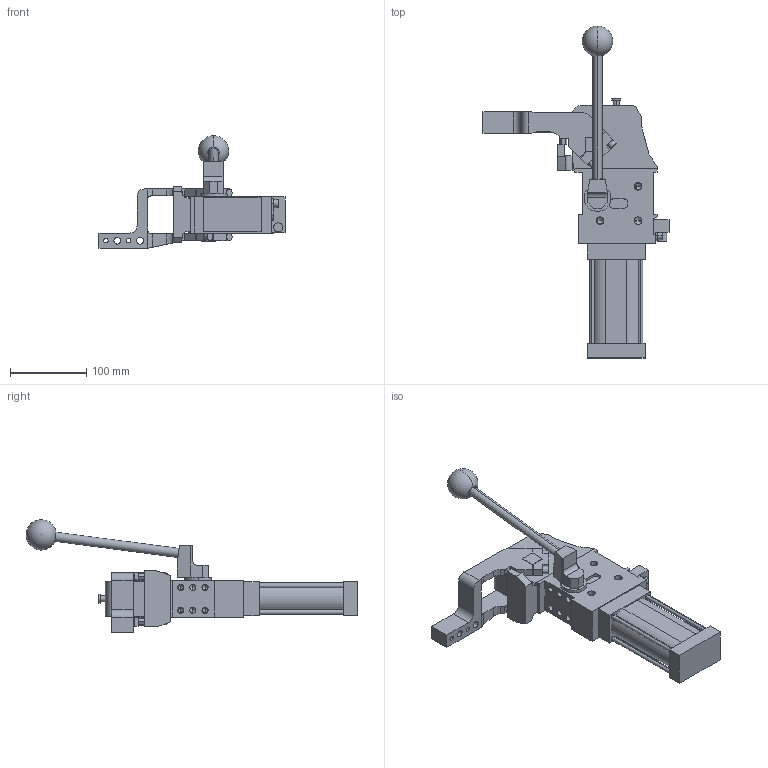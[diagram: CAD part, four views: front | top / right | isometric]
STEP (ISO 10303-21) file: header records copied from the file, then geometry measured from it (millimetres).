
FILE_DESCRIPTION (( 'STEP AP214' ), '1' );
FILE_NAME ('cplm50latv1di1g_135.STEP', '2023-01-26T13:27:41', ( '' ), ( '' ), 'SwSTEP 2.0', 'SolidWorks 2022', '' );
FILE_SCHEMA (( 'AUTOMOTIVE_DESIGN' ));
Length unit declared in the file: millimetre
Products named in the file (5): blocchetto_VEP_0; leva_v1d_cpl50t; comando_manuale_cplm_50; cplm50latv1di1g_135; meccanica_cplm_50_tassello_esterno
Assembly tree (4 placements, depth 2):
  cplm50latv1di1g_135
    meccanica_cplm_50_tassello_esterno
    blocchetto_VEP_0
    leva_v1d_cpl50t
    comando_manuale_cplm_50
Bounding box: 244.5 x 436.23 x 148 mm (x, y, z)
Volume: 1501974.6 mm3; surface area: 188306.2 mm2
Topology: 4 solids, 4 shells, 468 faces, 1215 edges, 761 vertices
Faces by surface type: plane 247, cylinder 169, cone 50, sphere 2
Entity records: 15559 total; most frequent: CARTESIAN_POINT 2494, DIRECTION 2458, ORIENTED_EDGE 2328, EDGE_CURVE 1164, AXIS2_PLACEMENT_3D 832, LINE 794, VECTOR 794, VERTEX_POINT 758
